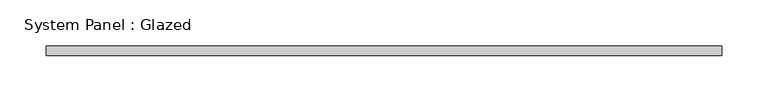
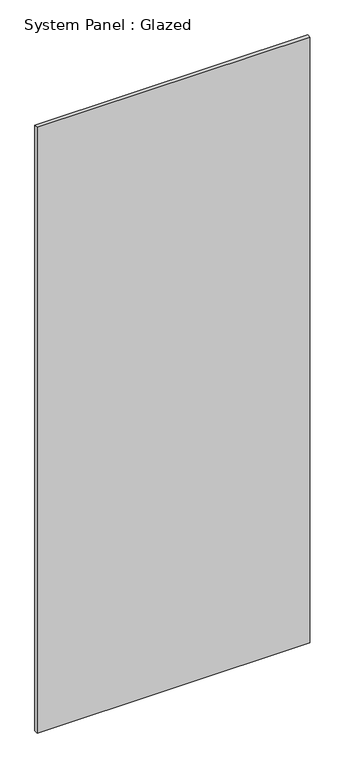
"""IFC4 building model written with IfcOpenShell, lengths in millimetres: plate geometry, System Panel : Glazed."""

from ifc_helpers import new_model, si_unit, origin, origin_with_axes, place, context, project, spatial, polyline, outline, extrude, source, transform, mapped, element, save


def system_panel_glazed_632911cd(model_context):
    return source(origin(), model_context, "Body", "SweptSolid", [
        extrude(outline(polyline([(365.0, -5.0), (-365.0, -5.0), (-365.0, 5.0), (365.0, 5.0), (365.0, -5.0)])), origin_with_axes(), (0.0, 0.0, 1.0), 1712.8880144),
    ])


if __name__ == "__main__":
    model = new_model("IFC4")
    model_context = context("Model", 3, world=origin())
    ifc_project = project(units=[si_unit("LENGTHUNIT", "METRE", prefix="MILLI")], contexts=[model_context])
    site = spatial("IfcSite", under=ifc_project)
    building = spatial("IfcBuilding", under=site)
    placement = place(None, origin())
    system_panel_glazed_shape = system_panel_glazed_632911cd(model_context)
    element("IfcPlate", 1, ObjectType="System Panel : Glazed", at=placement, inside=building, context=model_context, shape_type="MappedRepresentation", body=[
        mapped(system_panel_glazed_shape, transform((0.0, 0.0, 0.0), x_axis=(1.0, 0.0, 0.0), y_axis=(0.0, 1.0, 0.0), z_axis=(0.0, 0.0, 1.0))),
    ])
    save(model, "model.ifc")
